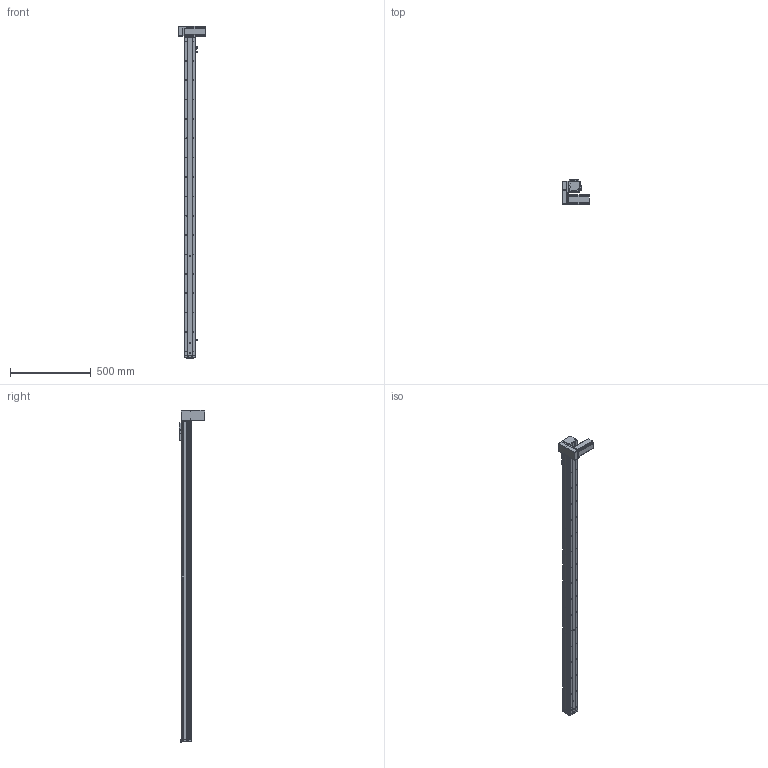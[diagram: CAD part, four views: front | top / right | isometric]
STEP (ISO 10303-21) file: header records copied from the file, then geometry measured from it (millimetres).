
FILE_DESCRIPTION (( 'STEP AP214' ), '1' );
FILE_NAME ('KSD68BS-S1800-MRD-CR.STEP', '2019-08-28T02:54:19', ( '微软用户' ), ( '微软中国' ), 'SwSTEP 2.0', 'SolidWorks 2014', '' );
FILE_SCHEMA (( 'AUTOMOTIVE_DESIGN' ));
Length unit declared in the file: millimetre
Products named in the file (14): 68宽单导轨全封闭丝杆传动安装板1防护罩; KSD68BS 1800行程侧板全封闭; 68宽单导轨全封闭同步带端板; 68单导轨全封闭同步带电机座右; 68单导轨全封闭同步带安装板; 悵誘欶奻狟殏; 68宽马达安装板连板上折同步带; 感应片68宽全封闭; U倰嫖萇EEㄜSX672; 台达ECMA－C20604AS伺服电机（400W); KSD68BS 1800行程盖板全封闭; 68遵裔啣揤啣1; KSD68BS 1800行程底板全封闭; KSD68BS-S1800-MRD-CR
Assembly tree (16 placements, depth 2):
  KSD68BS-S1800-MRD-CR
    KSD68BS 1800行程底板全封闭
    台达ECMA－C20604AS伺服电机（400W)
    U倰嫖萇EEㄜSX672  x3
    感应片68宽全封闭
    68宽马达安装板连板上折同步带
    悵誘欶奻狟殏
    68单导轨全封闭同步带安装板
    68单导轨全封闭同步带电机座右
    68宽单导轨全封闭同步带端板
    KSD68BS 1800行程侧板全封闭  x2
    68宽单导轨全封闭丝杆传动安装板1防护罩
    KSD68BS 1800行程盖板全封闭
    68遵裔啣揤啣1
Bounding box: 167.2 x 155.5 x 2058.1 mm (x, y, z)
Volume: 3617207.5 mm3; surface area: 1475788.9 mm2
Topology: 17 solids, 17 shells, 1557 faces, 4504 edges, 2861 vertices
Faces by surface type: cylinder 741, plane 624, cone 192
Entity records: 50754 total; most frequent: CARTESIAN_POINT 8978, DIRECTION 7557, ORIENTED_EDGE 7274, EDGE_CURVE 3637, AXIS2_PLACEMENT_3D 2734, VERTEX_POINT 2383, LINE 2089, VECTOR 2089
